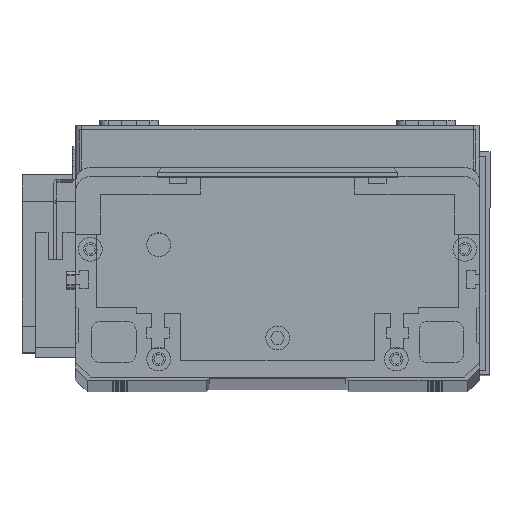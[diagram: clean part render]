
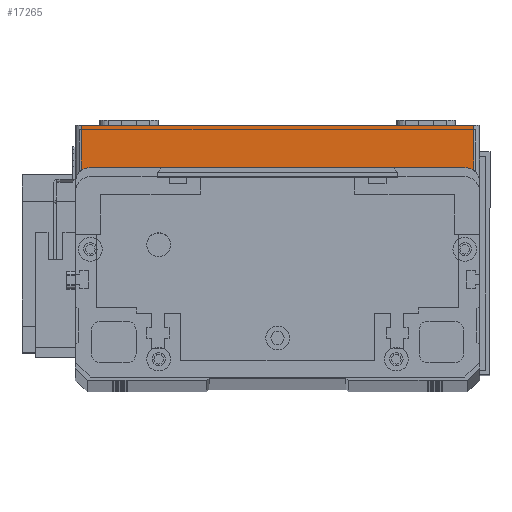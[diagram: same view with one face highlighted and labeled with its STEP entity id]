
A CAD part, top view. The second image highlights one B-rep face of the part: STEP entity #17265.
In plain terms, the highlighted planar face has unit normal (0, 0, 1) as drawn and (0, -1, 0) by its records, which use the part's own axes.
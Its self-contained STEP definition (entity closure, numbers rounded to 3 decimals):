
#357 = ORIENTED_EDGE ( 'NONE', *, *, #8933, .T. ) ;
#510 = VERTEX_POINT ( 'NONE', #27774 ) ;
#909 = VECTOR ( 'NONE', #17521, 1000. ) ;
#1180 = VECTOR ( 'NONE', #7757, 1000. ) ;
#1984 = DIRECTION ( 'NONE',  ( 0., 0., -1. ) ) ;
#2645 = LINE ( 'NONE', #5421, #1180 ) ;
#3992 = VERTEX_POINT ( 'NONE', #10912 ) ;
#4117 = EDGE_CURVE ( 'NONE', #3992, #510, #15228, .T. ) ;
#5007 = VERTEX_POINT ( 'NONE', #20709 ) ;
#5421 = CARTESIAN_POINT ( 'NONE',  ( 134., 0., 19.5 ) ) ;
#5719 = ORIENTED_EDGE ( 'NONE', *, *, #4117, .T. ) ;
#6405 = ORIENTED_EDGE ( 'NONE', *, *, #16441, .T. ) ;
#7159 = LINE ( 'NONE', #10413, #909 ) ;
#7501 = PLANE ( 'NONE',  #26939 ) ;
#7757 = DIRECTION ( 'NONE',  ( 0., 0., 1. ) ) ;
#8933 = EDGE_CURVE ( 'NONE', #510, #5007, #7159, .T. ) ;
#10413 = CARTESIAN_POINT ( 'NONE',  ( 0., 0., 0. ) ) ;
#10912 = CARTESIAN_POINT ( 'NONE',  ( 2., 0., 19.5 ) ) ;
#14450 = CARTESIAN_POINT ( 'NONE',  ( 0., 0., 19.5 ) ) ;
#14559 = DIRECTION ( 'NONE',  ( 0., 0., 1. ) ) ;
#15228 = LINE ( 'NONE', #23091, #27001 ) ;
#16441 = EDGE_CURVE ( 'NONE', #5007, #18283, #2645, .T. ) ;
#16909 = EDGE_LOOP ( 'NONE', ( #19266, #5719, #357, #6405 ) ) ;
#17265 = ADVANCED_FACE ( 'NONE', ( #29780 ), #7501, .F. ) ;
#17521 = DIRECTION ( 'NONE',  ( 1., 0., 0. ) ) ;
#18283 = VERTEX_POINT ( 'NONE', #20850 ) ;
#19266 = ORIENTED_EDGE ( 'NONE', *, *, #23895, .F. ) ;
#20709 = CARTESIAN_POINT ( 'NONE',  ( 134., 0., 0. ) ) ;
#20850 = CARTESIAN_POINT ( 'NONE',  ( 134., 0., 19.5 ) ) ;
#23091 = CARTESIAN_POINT ( 'NONE',  ( 2., 0., 19.5 ) ) ;
#23225 = DIRECTION ( 'NONE',  ( 1., 0., 0. ) ) ;
#23895 = EDGE_CURVE ( 'NONE', #3992, #18283, #26433, .T. ) ;
#26433 = LINE ( 'NONE', #30433, #27169 ) ;
#26939 = AXIS2_PLACEMENT_3D ( 'NONE', #14450, #28615, #14559 ) ;
#27001 = VECTOR ( 'NONE', #1984, 1000. ) ;
#27169 = VECTOR ( 'NONE', #23225, 1000. ) ;
#27774 = CARTESIAN_POINT ( 'NONE',  ( 2., 0., 0. ) ) ;
#28615 = DIRECTION ( 'NONE',  ( 0., 1., 0. ) ) ;
#29780 = FACE_OUTER_BOUND ( 'NONE', #16909, .T. ) ;
#30433 = CARTESIAN_POINT ( 'NONE',  ( 0., 0., 19.5 ) ) ;
